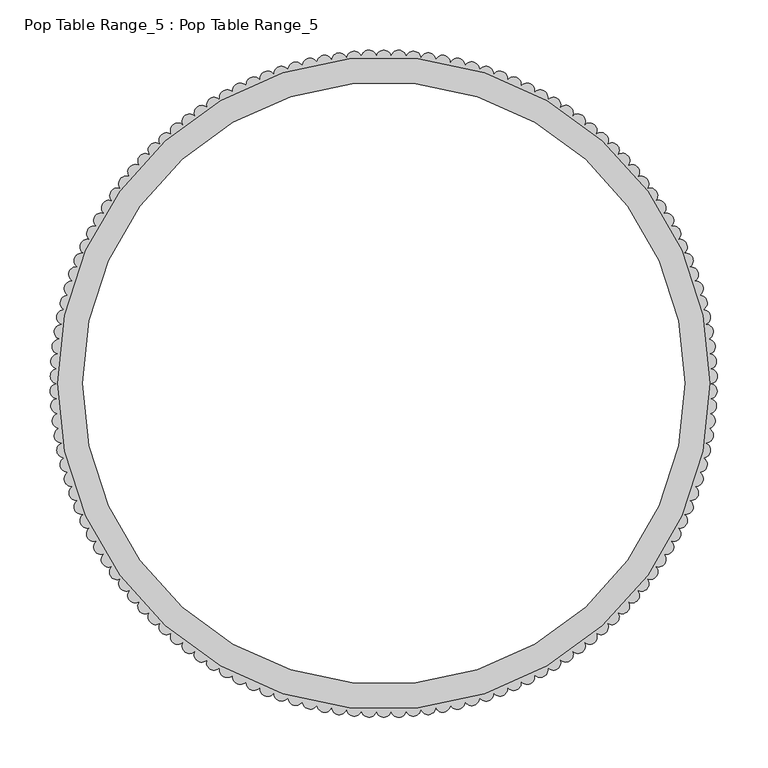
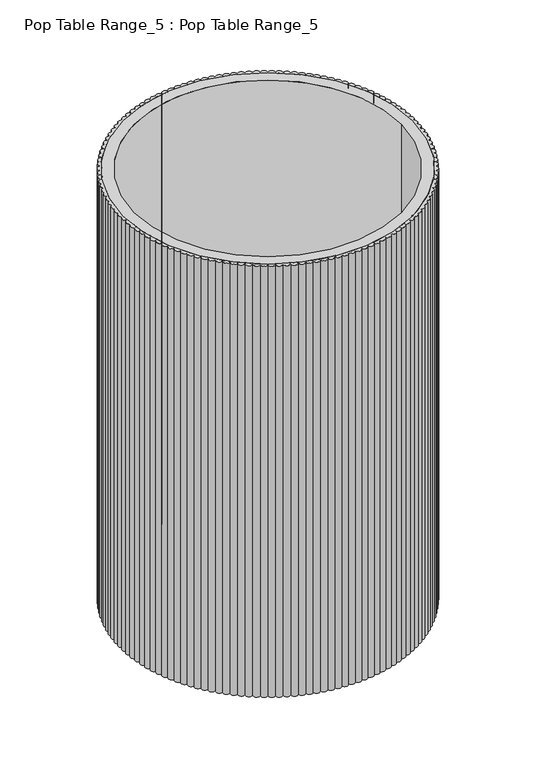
"""IFC4 building model written with IfcOpenShell, lengths in millimetres: proxy geometry, Pop Table Range_5 : Pop Table Range_5."""

from ifc_helpers import new_model, si_unit, point, frame_2d, origin, origin_with_axes, origin_2d, place, context, project, spatial, circle_curve, trimmed, segment, composite_curve, outline, extrude, source, transform, mapped, element, save


def pop_table_range_5_pop_table_range_5_3fef4e76(model_context):
    return source(origin(), model_context, "Body", "SweptSolid", [
        extrude(outline(composite_curve([segment(trimmed(circle_curve(origin_2d(), 325.0), [point((-325.0, 0.0))], [point((325.0, 0.0))], False, "CARTESIAN"), True, "CONTINUOUS"), segment(trimmed(circle_curve(origin_2d(), 325.0), [point((325.0, 0.0))], [point((-325.0, 0.0))], False, "CARTESIAN"), True, "CONTINUOUS")], self_intersect=False), holes=[composite_curve([segment(trimmed(circle_curve(origin_2d(), 300.0), [point((-300.0, 0.0))], [point((300.0, 0.0))], True, "CARTESIAN"), True, "CONTINUOUS"), segment(trimmed(circle_curve(origin_2d(), 300.0), [point((300.0, 0.0))], [point((-300.0, 0.0))], True, "CARTESIAN"), True, "CONTINUOUS")], self_intersect=False)]), origin_with_axes(), (0.0, 0.0, 1.0), 1025.0),
        extrude(outline(composite_curve([segment(trimmed(circle_curve(frame_2d((247.2099121, -211.2543513)), 7.4943763), [point((252.7840411, -206.244884))], [point((243.6994066, -217.8756826))], False, "CARTESIAN"), True, "CONTINUOUS"), segment(trimmed(circle_curve(frame_2d((237.1634458, -221.9294328)), 7.6910126), [point((243.6994066, -217.8756826))], [point((233.1096956, -228.4653936))], False, "CARTESIAN"), True, "CONTINUOUS"), segment(trimmed(circle_curve(frame_2d((227.0753539, -232.9130433)), 7.4963236), [point((233.1096956, -228.4653936))], [point((222.4914957, -238.8445787))], False, "CARTESIAN"), True, "CONTINUOUS"), segment(trimmed(circle_curve(frame_2d((216.1577636, -242.9008058)), 7.521246), [point((222.4914957, -238.8445787))], [point((211.4350641, -248.7544585))], False, "CARTESIAN"), True, "CONTINUOUS"), segment(trimmed(circle_curve(frame_2d((204.9939306, -252.599364)), 7.5014331), [point((211.4350641, -248.7544585))], [point((199.8938585, -258.1003425))], False, "CARTESIAN"), True, "CONTINUOUS"), segment(trimmed(circle_curve(frame_2d((193.3048096, -261.6777474)), 7.497559), [point((199.8938585, -258.1003425))], [point((187.9612582, -266.9370106))], False, "CARTESIAN"), True, "CONTINUOUS"), segment(trimmed(circle_curve(frame_2d((181.2288175, -270.2295576)), 7.4944395), [point((187.9612582, -266.9370106))], [point((175.6388266, -275.2214136))], False, "CARTESIAN"), True, "CONTINUOUS"), segment(trimmed(circle_curve(frame_2d((168.7957966, -278.2572271)), 7.4862022), [point((175.6388266, -275.2214136))], [point((162.9521038, -282.9363806))], False, "CARTESIAN"), True, "CONTINUOUS"), segment(trimmed(circle_curve(frame_2d((155.8519001, -285.4272381)), 7.5244444), [point((162.9521038, -282.9363806))], [point((149.9273849, -290.0659214))], False, "CARTESIAN"), True, "CONTINUOUS"), segment(trimmed(circle_curve(frame_2d((142.7754598, -292.3419199)), 7.5053448), [point((149.9273849, -290.0659214))], [point((136.5916657, -296.5952587))], False, "CARTESIAN"), True, "CONTINUOUS"), segment(trimmed(circle_curve(frame_2d((129.3323407, -298.5175493)), 7.5095273), [point((136.5916657, -296.5952587))], [point((122.9725865, -302.5108596))], False, "CARTESIAN"), True, "CONTINUOUS"), segment(trimmed(circle_curve(frame_2d((115.6962783, -304.2429247)), 7.4796197), [point((122.9725865, -302.5108596))], [point((109.0330932, -307.6409647))], False, "CARTESIAN"), True, "CONTINUOUS"), segment(trimmed(circle_curve(frame_2d((101.733608, -309.2250307)), 7.4693875), [point((109.0330932, -307.6409647))], [point((94.9977873, -312.4531056))], False, "CARTESIAN"), True, "CONTINUOUS"), segment(trimmed(circle_curve(frame_2d((87.6151599, -313.6218303)), 7.4745638), [point((94.9977873, -312.4531056))], [point((80.7000493, -316.4591439))], False, "CARTESIAN"), True, "CONTINUOUS"), segment(trimmed(circle_curve(frame_2d((73.2893465, -317.3660403)), 7.465988), [point((80.7000493, -316.4591439))], [point((66.2347953, -319.8102749))], False, "CARTESIAN"), True, "CONTINUOUS"), segment(trimmed(circle_curve(frame_2d((58.7568764, -320.1963851)), 7.4878803), [point((66.2347953, -319.8102749))], [point((51.6320066, -322.4995527))], False, "CARTESIAN"), True, "CONTINUOUS"), segment(trimmed(circle_curve(frame_2d((44.1413061, -322.5233903)), 7.4907384), [point((51.6320066, -322.4995527))], [point((36.9219497, -324.5214035))], False, "CARTESIAN"), True, "CONTINUOUS"), segment(trimmed(circle_curve(frame_2d((29.4178303, -323.984194)), 7.5233239), [point((36.9219497, -324.5214035))], [point((22.1351136, -325.8716366))], False, "CARTESIAN"), True, "CONTINUOUS"), segment(trimmed(circle_curve(frame_2d((14.6828137, -325.4234455)), 7.4657651), [point((22.1351136, -325.8716366))], [point((7.3021461, -326.5474535))], False, "CARTESIAN"), True, "CONTINUOUS"), segment(trimmed(circle_curve(frame_2d((-0.1220315, -324.9334249)), 7.5975984), [point((7.3021461, -326.5474535))], [point((-7.5462091, -326.5474535))], False, "CARTESIAN"), True, "CONTINUOUS"), segment(trimmed(circle_curve(frame_2d((-14.9131221, -325.1215549)), 7.5036387), [point((-7.5462091, -326.5474535))], [point((-22.3791766, -325.8716366))], False, "CARTESIAN"), True, "CONTINUOUS"), segment(trimmed(circle_curve(frame_2d((-29.6797341, -324.1795738)), 7.4940787), [point((-22.3791766, -325.8716366))], [point((-37.1660128, -324.5214035))], False, "CARTESIAN"), True, "CONTINUOUS"), segment(trimmed(circle_curve(frame_2d((-44.4028724, -322.6507359)), 7.4747263), [point((-37.1660128, -324.5214035))], [point((-51.8760696, -322.4995527))], False, "CARTESIAN"), True, "CONTINUOUS"), segment(trimmed(circle_curve(frame_2d((-59.006862, -320.2285443)), 7.4836942), [point((-51.8760696, -322.4995527))], [point((-66.4788583, -319.8102749))], False, "CARTESIAN"), True, "CONTINUOUS"), segment(trimmed(circle_curve(frame_2d((-73.4718408, -317.1002765)), 7.4997263), [point((-66.4788583, -319.8102749))], [point((-80.9441124, -316.4591439))], False, "CARTESIAN"), True, "CONTINUOUS"), segment(trimmed(circle_curve(frame_2d((-87.8109256, -313.4494548)), 7.4974231), [point((-80.9441124, -316.4591439))], [point((-95.2418503, -312.4531056))], False, "CARTESIAN"), True, "CONTINUOUS"), segment(trimmed(circle_curve(frame_2d((-101.9215437, -308.9961427)), 7.5212297), [point((-95.2418503, -312.4531056))], [point((-109.3522738, -307.8328948))], False, "CARTESIAN"), True, "CONTINUOUS"), segment(trimmed(circle_curve(frame_2d((-115.9750434, -304.3658152)), 7.4754076), [point((-109.3522738, -307.8328948))], [point((-123.2166495, -302.5108596))], False, "CARTESIAN"), True, "CONTINUOUS"), segment(trimmed(circle_curve(frame_2d((-129.5105682, -298.3659807)), 7.5361418), [point((-123.2166495, -302.5108596))], [point((-136.8357288, -296.5952587))], False, "CARTESIAN"), True, "CONTINUOUS"), segment(trimmed(circle_curve(frame_2d((-143.1212217, -292.5496327)), 7.4749255), [point((-136.8357288, -296.5952587))], [point((-150.171448, -290.0659214))], False, "CARTESIAN"), True, "CONTINUOUS"), segment(trimmed(circle_curve(frame_2d((-156.1831964, -285.5866016)), 7.4970278), [point((-150.171448, -290.0659214))], [point((-163.1961668, -282.9363806))], False, "CARTESIAN"), True, "CONTINUOUS"), segment(trimmed(circle_curve(frame_2d((-169.0703869, -278.307427)), 7.4788818), [point((-163.1961668, -282.9363806))], [point((-175.8828897, -275.2214136))], False, "CARTESIAN"), True, "CONTINUOUS"), segment(trimmed(circle_curve(frame_2d((-181.5183348, -270.2846402)), 7.4919939), [point((-175.8828897, -275.2214136))], [point((-188.2721619, -267.0418338))], False, "CARTESIAN"), True, "CONTINUOUS"), segment(trimmed(circle_curve(frame_2d((-193.5483345, -261.6996082)), 7.5084866), [point((-188.2721619, -267.0418338))], [point((-200.1379216, -258.1003425))], False, "CARTESIAN"), True, "CONTINUOUS"), segment(trimmed(circle_curve(frame_2d((-205.2081132, -252.5683516)), 7.5039833), [point((-200.1379216, -258.1003425))], [point((-211.6559584, -248.7297245))], False, "CARTESIAN"), True, "CONTINUOUS"), segment(trimmed(circle_curve(frame_2d((-216.5436241, -243.0562175)), 7.4885217), [point((-211.6559584, -248.7297245))], [point((-222.7355588, -238.8445787))], False, "CARTESIAN"), True, "CONTINUOUS"), segment(trimmed(circle_curve(frame_2d((-227.3403105, -232.934418)), 7.4922452), [point((-222.7355588, -238.8445787))], [point((-233.3537587, -228.4653936))], False, "CARTESIAN"), True, "CONTINUOUS"), segment(trimmed(circle_curve(frame_2d((-237.6146969, -222.2863588)), 7.5057355), [point((-233.3537587, -228.4653936))], [point((-243.4885502, -217.6136816))], False, "CARTESIAN"), True, "CONTINUOUS"), segment(trimmed(circle_curve(frame_2d((-247.6329036, -211.3911799)), 7.4763087), [point((-243.4885502, -217.6136816))], [point((-253.1189275, -206.3119345))], False, "CARTESIAN"), True, "CONTINUOUS"), segment(trimmed(circle_curve(frame_2d((-256.6162359, -199.6223843)), 7.5485925), [point((-253.1189275, -206.3119345))], [point((-262.2686972, -194.6192923))], False, "CARTESIAN"), True, "CONTINUOUS"), segment(trimmed(circle_curve(frame_2d((-265.9287602, -188.1163793)), 7.4621672), [point((-262.2686972, -194.6192923))], [point((-270.7876843, -182.4529178))], False, "CARTESIAN"), True, "CONTINUOUS"), segment(trimmed(circle_curve(frame_2d((-274.0780909, -175.7444906)), 7.4719322), [point((-270.7876843, -182.4529178))], [point((-278.7894427, -169.9450996))], False, "CARTESIAN"), True, "CONTINUOUS"), segment(trimmed(circle_curve(frame_2d((-281.733189, -163.0719705)), 7.4770012), [point((-278.7894427, -169.9450996))], [point((-286.2136203, -157.0860468))], False, "CARTESIAN"), True, "CONTINUOUS"), segment(trimmed(circle_curve(frame_2d((-288.7431034, -150.0350781)), 7.4909575), [point((-286.2136203, -157.0860468))], [point((-293.0448294, -143.9024117))], False, "CARTESIAN"), True, "CONTINUOUS"), segment(trimmed(circle_curve(frame_2d((-295.2825143, -136.7582783)), 7.4863793), [point((-293.0448294, -143.9024117))], [point((-299.2689113, -130.4215193))], False, "CARTESIAN"), True, "CONTINUOUS"), segment(trimmed(circle_curve(frame_2d((-301.2482971, -123.2111383)), 7.477136), [point((-299.2689113, -130.4215193))], [point((-304.8729656, -116.671311))], False, "CARTESIAN"), True, "CONTINUOUS"), segment(trimmed(circle_curve(frame_2d((-306.2297485, -109.2744016)), 7.5203144), [point((-304.8729656, -116.671311))], [point((-309.845377, -102.6802861))], False, "CARTESIAN"), True, "CONTINUOUS"), segment(trimmed(circle_curve(frame_2d((-311.1298065, -95.3103072)), 7.481066), [point((-309.845377, -102.6802861))], [point((-314.1758396, -88.4774432))], False, "CARTESIAN"), True, "CONTINUOUS"), segment(trimmed(circle_curve(frame_2d((-315.2492743, -81.088814)), 7.4661974), [point((-314.1758396, -88.4774432))], [point((-317.8553776, -74.0922198))], False, "CARTESIAN"), True, "CONTINUOUS"), segment(trimmed(circle_curve(frame_2d((-318.4006023, -66.6227404)), 7.4893519), [point((-317.8553776, -74.0922198))], [point((-320.8763647, -59.5544315))], False, "CARTESIAN"), True, "CONTINUOUS"), segment(trimmed(circle_curve(frame_2d((-320.9380028, -52.0448862)), 7.5097982), [point((-320.8763647, -59.5544315))], [point((-323.2325396, -44.89421))], False, "CARTESIAN"), True, "CONTINUOUS"), segment(trimmed(circle_curve(frame_2d((-323.0072518, -37.3959215)), 7.5016722), [point((-323.2325396, -44.89421))], [point((-324.9190185, -30.141941))], False, "CARTESIAN"), True, "CONTINUOUS"), segment(trimmed(circle_curve(frame_2d((-324.4048093, -22.6592919)), 7.5002966), [point((-324.9190185, -30.141941))], [point((-326.0306161, -15.3373248))], False, "CARTESIAN"), True, "CONTINUOUS"), segment(trimmed(circle_curve(frame_2d((-325.01653, -7.8922112)), 7.5138597), [point((-326.0306161, -15.3373248))], [point((-326.2703022, -0.4836929))], False, "CARTESIAN"), True, "CONTINUOUS"), segment(trimmed(circle_curve(frame_2d((-324.7141467, 6.9748124)), 7.6191155), [point((-326.2703022, -0.4836929))], [point((-326.2703022, 14.4333176))], False, "CARTESIAN"), True, "CONTINUOUS"), segment(trimmed(circle_curve(frame_2d((-324.5333441, 21.7066488)), 7.4778587), [point((-326.2703022, 14.4333176))], [point((-324.9190185, 29.1745552))], False, "CARTESIAN"), True, "CONTINUOUS"), segment(trimmed(circle_curve(frame_2d((-323.2001626, 36.4505893)), 7.4763051), [point((-324.9190185, 29.1745552))], [point((-323.2325396, 43.9268242))], False, "CARTESIAN"), True, "CONTINUOUS"), segment(trimmed(circle_curve(frame_2d((-320.8510468, 51.063525)), 7.5235633), [point((-323.2325396, 43.9268242))], [point((-320.8763647, 58.5870457))], False, "CARTESIAN"), True, "CONTINUOUS"), segment(trimmed(circle_curve(frame_2d((-318.4493128, 65.6654769)), 7.4829652), [point((-320.8763647, 58.5870457))], [point((-317.8553776, 73.124834))], False, "CARTESIAN"), True, "CONTINUOUS"), segment(trimmed(circle_curve(frame_2d((-314.932535, 80.0404107)), 7.5078765), [point((-317.8553776, 73.124834))], [point((-314.1758396, 87.5100575))], False, "CARTESIAN"), True, "CONTINUOUS"), segment(trimmed(circle_curve(frame_2d((-310.962326, 94.2918565)), 7.5046297), [point((-314.1758396, 87.5100575))], [point((-309.845377, 101.7129004))], False, "CARTESIAN"), True, "CONTINUOUS"), segment(trimmed(circle_curve(frame_2d((-306.436435, 108.3804723)), 7.4884845), [point((-309.845377, 101.7129004))], [point((-304.8729656, 115.7039253))], False, "CARTESIAN"), True, "CONTINUOUS"), segment(trimmed(circle_curve(frame_2d((-301.1109547, 122.1877771)), 7.4962031), [point((-304.8729656, 115.7039253))], [point((-299.2689113, 129.4541336))], False, "CARTESIAN"), True, "CONTINUOUS"), segment(trimmed(circle_curve(frame_2d((-295.2414997, 135.7719562)), 7.4923246), [point((-299.2689113, 129.4541336))], [point((-293.0448294, 142.9350259))], False, "CARTESIAN"), True, "CONTINUOUS"), segment(trimmed(circle_curve(frame_2d((-288.6432445, 149.0159496)), 7.5067691), [point((-293.0448294, 142.9350259))], [point((-286.2136203, 156.118661))], False, "CARTESIAN"), True, "CONTINUOUS"), segment(trimmed(circle_curve(frame_2d((-281.7477649, 162.1130001)), 7.4750228), [point((-286.2136203, 156.118661))], [point((-278.7894427, 168.9777139))], False, "CARTESIAN"), True, "CONTINUOUS"), segment(trimmed(circle_curve(frame_2d((-273.8350186, 174.6216016)), 7.5099792), [point((-278.7894427, 168.9777139))], [point((-270.7876843, 181.4855321))], False, "CARTESIAN"), True, "CONTINUOUS"), segment(trimmed(circle_curve(frame_2d((-265.5677684, 186.8883686)), 7.5125339), [point((-270.7876843, 181.4855321))], [point((-262.2249301, 193.6161912))], False, "CARTESIAN"), True, "CONTINUOUS"), segment(trimmed(circle_curve(frame_2d((-256.7329744, 198.7513574)), 7.5187438), [point((-262.2249301, 193.6161912))], [point((-253.1189275, 205.3445488))], False, "CARTESIAN"), True, "CONTINUOUS"), segment(trimmed(circle_curve(frame_2d((-247.5992308, 210.3951011)), 7.4816529), [point((-253.1189275, 205.3445488))], [point((-243.4885502, 216.6462959))], False, "CARTESIAN"), True, "CONTINUOUS"), segment(trimmed(circle_curve(frame_2d((-237.5754622, 221.2823304)), 7.5138157), [point((-243.4885502, 216.6462959))], [point((-233.3537587, 227.4980079))], False, "CARTESIAN"), True, "CONTINUOUS"), segment(trimmed(circle_curve(frame_2d((-227.3148538, 231.9409893)), 7.4972299), [point((-233.3537587, 227.4980079))], [point((-222.7355588, 237.877193))], False, "CARTESIAN"), True, "CONTINUOUS"), segment(trimmed(circle_curve(frame_2d((-216.4143294, 241.943914)), 7.5163928), [point((-222.7355588, 237.877193))], [point((-211.6559584, 247.7623388))], False, "CARTESIAN"), True, "CONTINUOUS"), segment(trimmed(circle_curve(frame_2d((-205.2013368, 251.5926366)), 7.5055527), [point((-211.6559584, 247.7623388))], [point((-200.1379216, 257.1329568))], False, "CARTESIAN"), True, "CONTINUOUS"), segment(trimmed(circle_curve(frame_2d((-193.5013035, 260.6461266)), 7.5091319), [point((-200.1379216, 257.1329568))], [point((-188.2053213, 265.9696249))], False, "CARTESIAN"), True, "CONTINUOUS"), segment(trimmed(circle_curve(frame_2d((-181.3978943, 269.1506355)), 7.5139796), [point((-188.2053213, 265.9696249))], [point((-175.8828897, 274.2540278))], False, "CARTESIAN"), True, "CONTINUOUS"), segment(trimmed(circle_curve(frame_2d((-168.9845287, 277.1988535)), 7.5006255), [point((-175.8828897, 274.2540278))], [point((-163.1961668, 281.9689949))], False, "CARTESIAN"), True, "CONTINUOUS"), segment(trimmed(circle_curve(frame_2d((-156.1988467, 284.6478069)), 7.4925645), [point((-163.1961668, 281.9689949))], [point((-150.171448, 289.0985356))], False, "CARTESIAN"), True, "CONTINUOUS"), segment(trimmed(circle_curve(frame_2d((-143.0551647, 291.44733)), 7.4938857), [point((-150.171448, 289.0985356))], [point((-136.8357288, 295.627873))], False, "CARTESIAN"), True, "CONTINUOUS"), segment(trimmed(circle_curve(frame_2d((-129.5990064, 297.6022002)), 7.5012078), [point((-136.8357288, 295.627873))], [point((-123.2166495, 301.5434739))], False, "CARTESIAN"), True, "CONTINUOUS"), segment(trimmed(circle_curve(frame_2d((-115.919771, 303.2446203)), 7.492552), [point((-123.2166495, 301.5434739))], [point((-109.3424379, 306.8330774))], False, "CARTESIAN"), True, "CONTINUOUS"), segment(trimmed(circle_curve(frame_2d((-101.9825256, 308.2210494)), 7.4896446), [point((-109.3424379, 306.8330774))], [point((-95.2418503, 311.4857199))], False, "CARTESIAN"), True, "CONTINUOUS"), segment(trimmed(circle_curve(frame_2d((-87.7701888, 312.3366774)), 7.5199637), [point((-95.2418503, 311.4857199))], [point((-80.9441124, 315.4917582))], False, "CARTESIAN"), True, "CONTINUOUS"), segment(trimmed(circle_curve(frame_2d((-73.4806887, 316.1276004)), 7.4904598), [point((-80.9441124, 315.4917582))], [point((-66.4330287, 318.6648188))], False, "CARTESIAN"), True, "CONTINUOUS"), segment(trimmed(circle_curve(frame_2d((-59.0643388, 319.231212)), 7.3904257), [point((-66.4330287, 318.6648188))], [point((-52.0200338, 321.4664212))], False, "CARTESIAN"), True, "CONTINUOUS"), segment(trimmed(circle_curve(frame_2d((-44.42571, 321.3197237)), 7.5957405), [point((-52.0200338, 321.4664212))], [point((-37.1660128, 323.5540177))], False, "CARTESIAN"), True, "CONTINUOUS"), segment(trimmed(circle_curve(frame_2d((-29.672283, 323.1305885)), 7.5056831), [point((-37.1660128, 323.5540177))], [point((-22.3791766, 324.9042509))], False, "CARTESIAN"), True, "CONTINUOUS"), segment(trimmed(circle_curve(frame_2d((-14.9140756, 324.1750967)), 7.5006266), [point((-22.3791766, 324.9042509))], [point((-7.5462091, 325.5800678))], False, "CARTESIAN"), True, "CONTINUOUS"), segment(trimmed(circle_curve(frame_2d((-0.1220315, 323.9907785)), 7.5923813), [point((-7.5462091, 325.5800678))], [point((7.3021461, 325.5800678))], False, "CARTESIAN"), True, "CONTINUOUS"), segment(trimmed(circle_curve(frame_2d((14.6668577, 324.1058552)), 7.5108109), [point((7.3021461, 325.5800678))], [point((22.1351136, 324.9042509))], False, "CARTESIAN"), True, "CONTINUOUS"), segment(trimmed(circle_curve(frame_2d((29.432216, 323.174351)), 7.4993505), [point((22.1351136, 324.9042509))], [point((36.9219497, 323.5540177))], False, "CARTESIAN"), True, "CONTINUOUS"), segment(trimmed(circle_curve(frame_2d((44.1372737, 321.4546676)), 7.5145306), [point((36.9219497, 323.5540177))], [point((51.6484794, 321.6781817))], False, "CARTESIAN"), True, "CONTINUOUS"), segment(trimmed(circle_curve(frame_2d((58.7015145, 319.0252102)), 7.5354868), [point((51.6484794, 321.6781817))], [point((66.2347953, 318.8428891))], False, "CARTESIAN"), True, "CONTINUOUS"), segment(trimmed(circle_curve(frame_2d((73.2280844, 316.1342148)), 7.499534), [point((66.2347953, 318.8428891))], [point((80.7000493, 315.4917582))], False, "CARTESIAN"), True, "CONTINUOUS"), segment(trimmed(circle_curve(frame_2d((87.5824717, 312.5377787)), 7.4895749), [point((80.7000493, 315.4917582))], [point((94.9977873, 311.4857199))], False, "CARTESIAN"), True, "CONTINUOUS"), segment(trimmed(circle_curve(frame_2d((101.670916, 308.0163388)), 7.5211204), [point((94.9977873, 311.4857199))], [point((109.0983748, 306.8330774))], False, "CARTESIAN"), True, "CONTINUOUS"), segment(trimmed(circle_curve(frame_2d((115.6884082, 303.277932)), 7.48783), [point((109.0983748, 306.8330774))], [point((122.9725865, 301.5434739))], False, "CARTESIAN"), True, "CONTINUOUS"), segment(trimmed(circle_curve(frame_2d((129.361036, 297.6162269)), 7.499037), [point((122.9725865, 301.5434739))], [point((136.5916657, 295.627873))], False, "CARTESIAN"), True, "CONTINUOUS"), segment(trimmed(circle_curve(frame_2d((142.775434, 291.3744813)), 7.5053535), [point((136.5916657, 295.627873))], [point((149.9273849, 289.0985356))], False, "CARTESIAN"), True, "CONTINUOUS"), segment(trimmed(circle_curve(frame_2d((155.9639116, 284.6644824)), 7.4900255), [point((149.9273849, 289.0985356))], [point((162.9521038, 281.9689949))], False, "CARTESIAN"), True, "CONTINUOUS"), segment(trimmed(circle_curve(frame_2d((168.7789554, 277.2621471)), 7.4904349), [point((162.9521038, 281.9689949))], [point((175.6388266, 274.2540278))], False, "CARTESIAN"), True, "CONTINUOUS"), segment(trimmed(circle_curve(frame_2d((181.2045394, 269.22606)), 7.5005079), [point((175.6388266, 274.2540278))], [point((187.9612582, 265.9696249))], False, "CARTESIAN"), True, "CONTINUOUS"), segment(trimmed(circle_curve(frame_2d((193.3098574, 260.717178)), 7.4963799), [point((187.9612582, 265.9696249))], [point((199.8938585, 257.1329568))], False, "CARTESIAN"), True, "CONTINUOUS"), segment(trimmed(circle_curve(frame_2d((204.9547568, 251.6984003)), 7.426109), [point((199.8938585, 257.1329568))], [point((211.3443234, 247.9141521))], False, "CARTESIAN"), True, "CONTINUOUS"), segment(trimmed(circle_curve(frame_2d((216.1384471, 242.0299918)), 7.5899252), [point((211.3443234, 247.9141521))], [point((222.4914957, 237.877193))], False, "CARTESIAN"), True, "CONTINUOUS"), segment(trimmed(circle_curve(frame_2d((227.0426043, 231.909041)), 7.5054265), [point((222.4914957, 237.877193))], [point((233.1335287, 227.5236029))], False, "CARTESIAN"), True, "CONTINUOUS"), segment(trimmed(circle_curve(frame_2d((237.5388048, 221.479029)), 7.4795274), [point((233.1335287, 227.5236029))], [point((243.2613579, 216.6628358))], False, "CARTESIAN"), True, "CONTINUOUS"), segment(trimmed(circle_curve(frame_2d((247.2136519, 210.262543)), 7.5222588), [point((243.2613579, 216.6628358))], [point((253.0016046, 205.4579638))], False, "CARTESIAN"), True, "CONTINUOUS"), segment(trimmed(circle_curve(frame_2d((256.4319579, 198.7377741)), 7.5450827), [point((253.0016046, 205.4579638))], [point((261.9462853, 193.5879715))], False, "CARTESIAN"), True, "CONTINUOUS"), segment(trimmed(circle_curve(frame_2d((265.3299753, 186.8730172)), 7.5193065), [point((261.9462853, 193.5879715))], [point((270.6706587, 181.5799017))], False, "CARTESIAN"), True, "CONTINUOUS"), segment(trimmed(circle_curve(frame_2d((273.5459677, 174.6151644)), 7.5349166), [point((270.6706587, 181.5799017))], [point((278.5453796, 168.9777139))], False, "CARTESIAN"), True, "CONTINUOUS"), segment(trimmed(circle_curve(frame_2d((281.3160744, 162.0046733)), 7.5033355), [point((278.5453796, 168.9777139))], [point((285.9695573, 156.118661))], False, "CARTESIAN"), True, "CONTINUOUS"), segment(trimmed(circle_curve(frame_2d((288.3635796, 149.0015282)), 7.5089895), [point((285.9695573, 156.118661))], [point((292.7512807, 142.9078426))], False, "CARTESIAN"), True, "CONTINUOUS"), segment(trimmed(circle_curve(frame_2d((294.8385393, 135.6915865)), 7.5120571), [point((292.7512807, 142.9078426))], [point((299.0248482, 129.4541336))], False, "CARTESIAN"), True, "CONTINUOUS"), segment(trimmed(circle_curve(frame_2d((300.7513168, 122.14824)), 7.5071149), [point((299.0248482, 129.4541336))], [point((304.5254234, 115.6587952))], False, "CARTESIAN"), True, "CONTINUOUS"), segment(trimmed(circle_curve(frame_2d((306.0763591, 108.3266057)), 7.4944249), [point((304.5254234, 115.6587952))], [point((309.601314, 101.7129004))], False, "CARTESIAN"), True, "CONTINUOUS"), segment(trimmed(circle_curve(frame_2d((310.6953251, 94.2848627)), 7.5081692), [point((309.601314, 101.7129004))], [point((313.9317765, 87.5100575))], False, "CARTESIAN"), True, "CONTINUOUS"), segment(trimmed(circle_curve(frame_2d((314.7729253, 80.0658536)), 7.4915754), [point((313.9317765, 87.5100575))], [point((317.5461052, 73.1064588))], False, "CARTESIAN"), True, "CONTINUOUS"), segment(trimmed(circle_curve(frame_2d((318.0355678, 65.6227951)), 7.4996531), [point((317.5461052, 73.1064588))], [point((320.6323017, 58.5870457))], False, "CARTESIAN"), True, "CONTINUOUS"), segment(trimmed(circle_curve(frame_2d((320.7518966, 51.0868152)), 7.5011839), [point((320.6323017, 58.5870457))], [point((322.9884765, 43.9268242))], False, "CARTESIAN"), True, "CONTINUOUS"), segment(trimmed(circle_curve(frame_2d((322.9032703, 36.4445498)), 7.4827595), [point((322.9884765, 43.9268242))], [point((324.6749554, 29.1745552))], False, "CARTESIAN"), True, "CONTINUOUS"), segment(trimmed(circle_curve(frame_2d((324.0470113, 21.6900771)), 7.510774), [point((324.6749554, 29.1745552))], [point((325.688243, 14.3608149))], False, "CARTESIAN"), True, "CONTINUOUS"), segment(trimmed(circle_curve(frame_2d((324.8548315, 6.9157371)), 7.4915792), [point((325.688243, 14.3608149))], [point((326.0262391, -0.4836929))], False, "CARTESIAN"), True, "CONTINUOUS"), segment(trimmed(circle_curve(frame_2d((324.4504951, -7.9268908)), 7.6081643), [point((326.0262391, -0.4836929))], [point((326.0262391, -15.3700887))], False, "CARTESIAN"), True, "CONTINUOUS"), segment(trimmed(circle_curve(frame_2d((323.9940377, -22.643545)), 7.5520201), [point((326.0262391, -15.3700887))], [point((324.8324423, -30.1488821))], False, "CARTESIAN"), True, "CONTINUOUS"), segment(trimmed(circle_curve(frame_2d((322.6636915, -37.3882779)), 7.5572701), [point((324.8324423, -30.1488821))], [point((323.2798949, -44.9203842))], False, "CARTESIAN"), True, "CONTINUOUS"), segment(trimmed(circle_curve(frame_2d((320.7286993, -52.0196585)), 7.5437587), [point((323.2798949, -44.9203842))], [point((320.6979442, -59.5633545))], False, "CARTESIAN"), True, "CONTINUOUS"), segment(trimmed(circle_curve(frame_2d((318.0572273, -66.5945499)), 7.5107319), [point((320.6979442, -59.5633545))], [point((317.6097974, -74.0919427))], False, "CARTESIAN"), True, "CONTINUOUS"), segment(trimmed(circle_curve(frame_2d((314.7165974, -81.0210239)), 7.5088463), [point((317.6097974, -74.0919427))], [point((314.0181348, -88.4973146))], False, "CARTESIAN"), True, "CONTINUOUS"), segment(trimmed(circle_curve(frame_2d((310.7443868, -95.2620853)), 7.5152876), [point((314.0181348, -88.4973146))], [point((309.6756351, -102.700991))], False, "CARTESIAN"), True, "CONTINUOUS"), segment(trimmed(circle_curve(frame_2d((306.0689913, -109.2924761)), 7.5136912), [point((309.6756351, -102.700991))], [point((304.5949158, -116.6601527))], False, "CARTESIAN"), True, "CONTINUOUS"), segment(trimmed(circle_curve(frame_2d((300.8218611, -123.1415423)), 7.4996236), [point((304.5949158, -116.6601527))], [point((299.0336179, -130.4248479))], False, "CARTESIAN"), True, "CONTINUOUS"), segment(trimmed(circle_curve(frame_2d((295.0682213, -136.7844138)), 7.4945612), [point((299.0336179, -130.4248479))], [point((292.9955111, -143.9866579))], False, "CARTESIAN"), True, "CONTINUOUS"), segment(trimmed(circle_curve(frame_2d((288.5012429, -150.0135284)), 7.5180859), [point((292.9955111, -143.9866579))], [point((286.0179037, -157.1096289))], False, "CARTESIAN"), True, "CONTINUOUS"), segment(trimmed(circle_curve(frame_2d((281.404797, -163.0401058)), 7.5134086), [point((286.0179037, -157.1096289))], [point((278.8200415, -170.094916))], False, "CARTESIAN"), True, "CONTINUOUS"), segment(trimmed(circle_curve(frame_2d((273.7829887, -175.6054211)), 7.4657596), [point((278.8200415, -170.094916))], [point((270.7976458, -182.4483221))], False, "CARTESIAN"), True, "CONTINUOUS"), segment(trimmed(circle_curve(frame_2d((265.4272682, -187.8170242)), 7.5936762), [point((270.7976458, -182.4483221))], [point((261.980867, -194.583577))], False, "CARTESIAN"), True, "CONTINUOUS"), segment(trimmed(circle_curve(frame_2d((256.5817358, -199.7827347)), 7.4954558), [point((261.980867, -194.583577))], [point((252.7840411, -206.244884))], False, "CARTESIAN"), True, "CONTINUOUS")], self_intersect=False), holes=[composite_curve([segment(trimmed(circle_curve(origin_2d(), 325.0), [point((-325.0, 0.0))], [point((325.0, 0.0))], True, "CARTESIAN"), True, "CONTINUOUS"), segment(trimmed(circle_curve(origin_2d(), 325.0), [point((325.0, 0.0))], [point((-325.0, 0.0))], True, "CARTESIAN"), True, "CONTINUOUS")], self_intersect=False)]), origin_with_axes(), (0.0, 0.0, 1.0), 1025.0),
    ])


if __name__ == "__main__":
    model = new_model("IFC4")
    model_context = context("Model", 3, world=origin())
    ifc_project = project(units=[si_unit("LENGTHUNIT", "METRE", prefix="MILLI")], contexts=[model_context])
    site = spatial("IfcSite", under=ifc_project)
    building = spatial("IfcBuilding", under=site)
    placement = place(None, origin())
    pop_table_range_5_pop_table_range_5_shape = pop_table_range_5_pop_table_range_5_3fef4e76(model_context)
    element("IfcBuildingElementProxy", 1, Name="Pop Table Range_5 : Pop Table Range_5", ObjectType="Pop Table Range_5 : Pop Table Range_5", at=placement, inside=building, context=model_context, shape_type="MappedRepresentation", body=[
        mapped(pop_table_range_5_pop_table_range_5_shape, transform((0.0, 0.0, 0.0), x_axis=(1.0, 0.0, 0.0), y_axis=(0.0, 1.0, 0.0), z_axis=(0.0, 0.0, 1.0))),
    ])
    save(model, "model.ifc")
